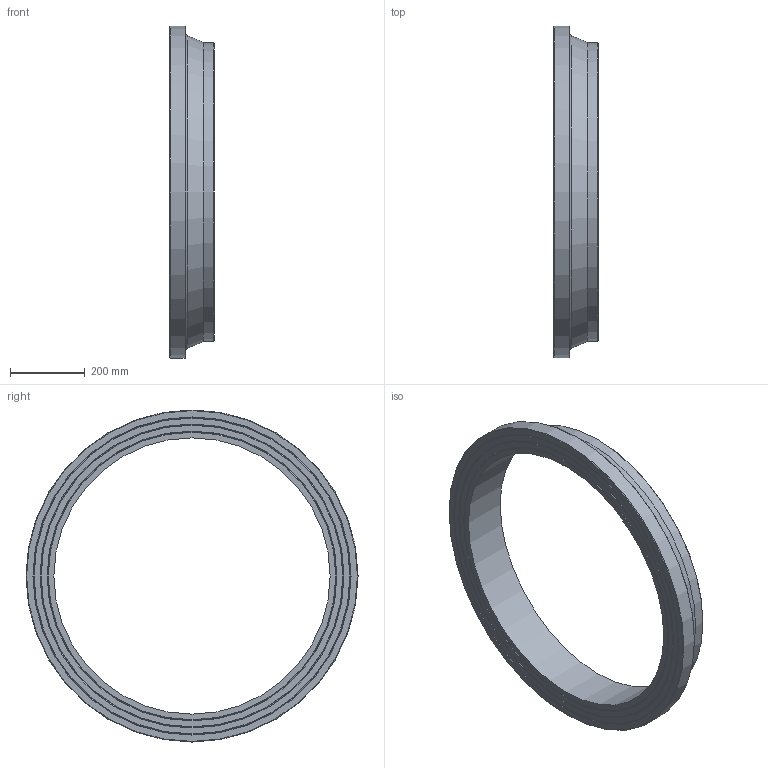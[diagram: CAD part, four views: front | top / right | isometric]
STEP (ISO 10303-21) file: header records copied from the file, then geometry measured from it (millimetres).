
FILE_DESCRIPTION(/* description */ ('Unknown'),/* implementation_level */ '2;1');
FILE_NAME(/* name */ 'CCP800A',/* time_stamp */ '2022-04-05T10:59:13+02:00',/* author */ ('Unknown'),/* organization */ ('Unknown'),/* preprocessor_version */ 'ST-DEVELOPER v18.1',/* originating_system */ 'Solid Edge',/* authorisation */ 'Unknown');
FILE_SCHEMA (('AUTOMOTIVE_DESIGN {1 0 10303 214 3 1 1}'));
Length unit declared in the file: millimetre
Products named in the file (1): CCP800A
Bounding box: 120 x 888 x 888 mm (x, y, z)
Volume: 15079638.2 mm3; surface area: 928862.6 mm2
Topology: 1 solids, 1 shells, 20 faces, 35 edges, 21 vertices
Faces by surface type: cone 10, plane 6, cylinder 3, torus 1
Full cylindrical faces by diameter (mm): 738.8 x1, 800 x1, 888 x1
Entity records: 438 total; most frequent: DIRECTION 82, CARTESIAN_POINT 61, AXIS2_PLACEMENT_3D 41, ORIENTED_EDGE 40, EDGE_LOOP 40, FACE_BOUND 40, EDGE_CURVE 20, VERTEX_POINT 20
